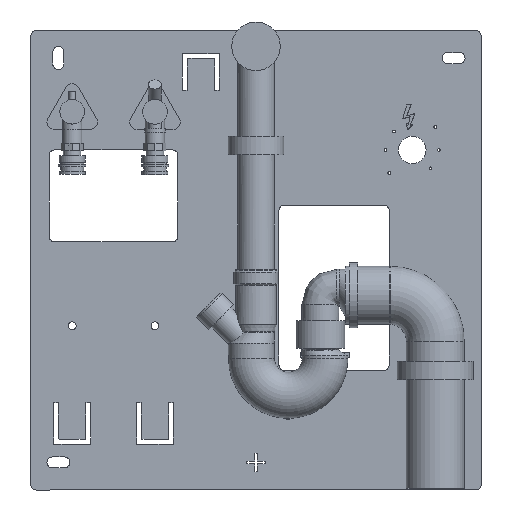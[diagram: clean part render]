
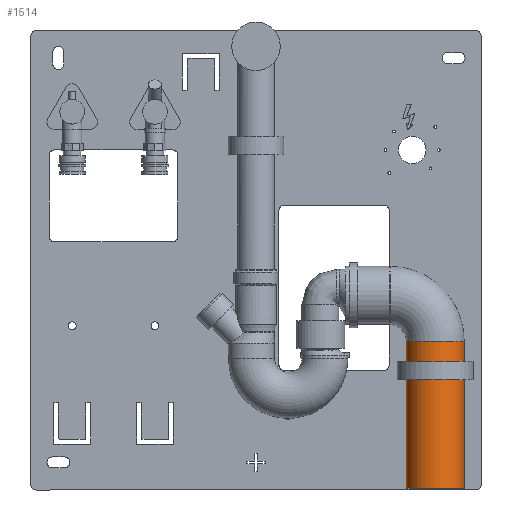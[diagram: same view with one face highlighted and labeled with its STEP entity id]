
A CAD part, front view. The second image highlights one B-rep face of the part: STEP entity #1514.
In plain terms, the highlighted cylindrical face has radius 31.5 mm (diameter 63 mm), a full revolution.
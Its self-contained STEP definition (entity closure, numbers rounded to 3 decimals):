
#1514=ADVANCED_FACE('',(#3039,#3040),#3041,.T.);
#3039=FACE_BOUND('',#5177,.T.);
#3040=FACE_BOUND('',#5178,.T.);
#3041=CYLINDRICAL_SURFACE('',#5179,31.5);
#5177=EDGE_LOOP('',(#6499));
#5178=EDGE_LOOP('',(#6500));
#5179=AXIS2_PLACEMENT_3D('',#6501,#6502,#6503);
#6499=ORIENTED_EDGE('',*,*,#9644,.T.);
#6500=ORIENTED_EDGE('',*,*,#9645,.F.);
#6501=CARTESIAN_POINT('',(253.235,-50.0,190.0));
#6502=DIRECTION('',(0.,0.,-1.0));
#6503=DIRECTION('',(0.,1.0,0.));
#9644=EDGE_CURVE('',#12210,#12210,#12211,.T.);
#9645=EDGE_CURVE('',#12212,#12212,#12213,.T.);
#12210=VERTEX_POINT('',#13970);
#12211=CIRCLE('',#13971,31.5);
#12212=VERTEX_POINT('',#13972);
#12213=CIRCLE('',#13973,31.5);
#13970=CARTESIAN_POINT('',(221.735,-50.0,350.));
#13971=AXIS2_PLACEMENT_3D('',#15941,#15942,#15943);
#13972=CARTESIAN_POINT('',(253.235,-18.5,190.0));
#13973=AXIS2_PLACEMENT_3D('',#15944,#15945,#15946);
#15941=CARTESIAN_POINT('',(253.235,-50.0,350.));
#15942=DIRECTION('',(0.0,0.0,-1.0));
#15943=DIRECTION('',(1.0,0.0,0.0));
#15944=CARTESIAN_POINT('',(253.235,-50.0,190.0));
#15945=DIRECTION('',(0.,0.,-1.0));
#15946=DIRECTION('',(0.,1.0,0.));
